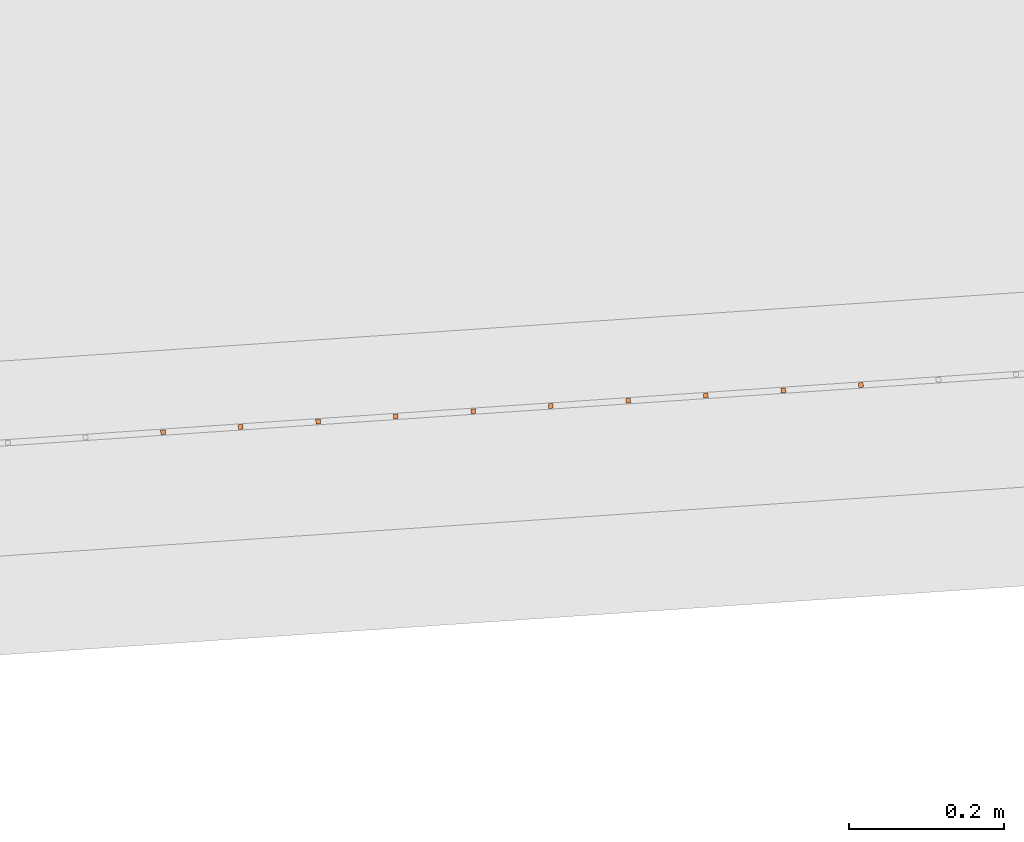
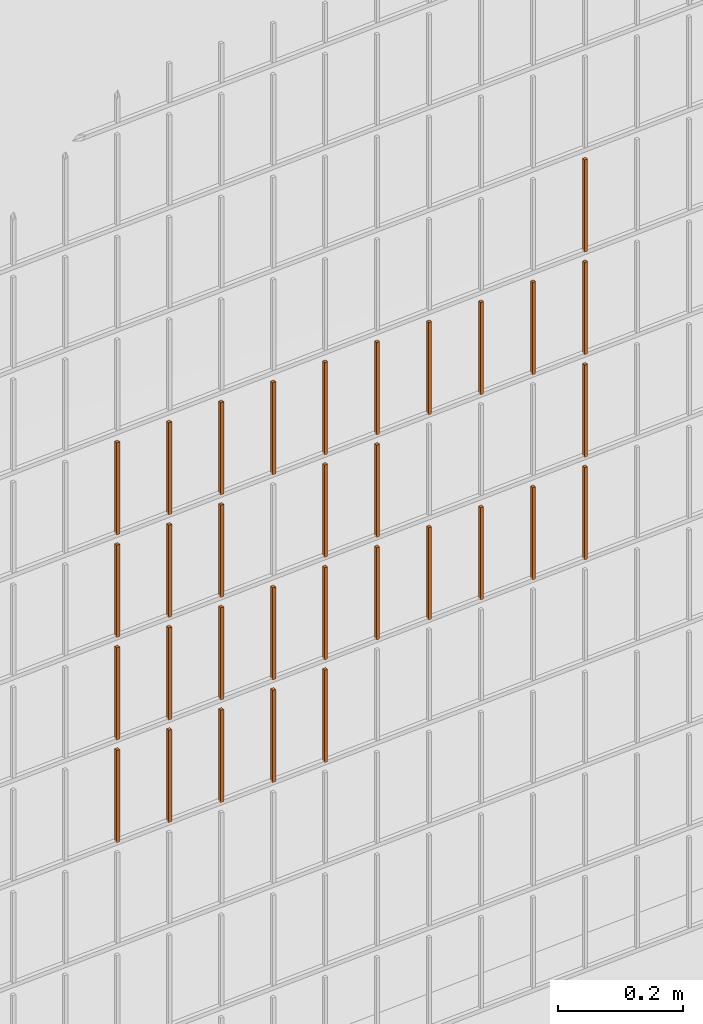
# One storey, part 341 of 1809: 32 proxies, 1 element without a shape of its own.
"""IFC2X3 building model written with IfcOpenShell, lengths in millimetres."""

from ifc_helpers import new_model, entity, si_unit, converted_unit, derived_unit, money_unit, direction, frame, origin_with_axes, place, context, subcontext, project, spatial, faceted_brep, source, transform, mapped, material, type_object, element, aggregate, save


model = new_model("IFC2X3")

# Units and contexts
model_context = context("Model", 3, precision=0.01, world=origin_with_axes(), true_north=direction((0.0, 1.0)))
body_context = subcontext(model_context, "Body", "Model", "MODEL_VIEW")
ifc_project = project(units=[si_unit("LENGTHUNIT", "METRE", prefix="MILLI"), si_unit("AREAUNIT", "SQUARE_METRE"), si_unit("VOLUMEUNIT", "CUBIC_METRE"), converted_unit("PLANEANGLEUNIT", "DEGREE", entity("IfcPlaneAngleMeasure", 0.0174532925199), si_unit("PLANEANGLEUNIT", "RADIAN"), dimensions=[0, 0, 0, 0, 0, 0, 0]), si_unit("SOLIDANGLEUNIT", "STERADIAN"), money_unit("EUR"), converted_unit("TIMEUNIT", "Year", entity("IfcTimeMeasure", 31556926.0), si_unit("TIMEUNIT", "SECOND"), dimensions=[0, 0, 1, 0, 0, 0, 0]), si_unit("MASSUNIT", "GRAM", prefix="KILO"), si_unit("THERMODYNAMICTEMPERATUREUNIT", "DEGREE_CELSIUS"), si_unit("LUMINOUSINTENSITYUNIT", "LUMEN"), si_unit("ENERGYUNIT", "JOULE", prefix="MEGA"), derived_unit("THERMALCONDUCTANCEUNIT", [(si_unit("POWERUNIT", "WATT"), 1), (si_unit("LENGTHUNIT", "METRE"), -1), (si_unit("THERMODYNAMICTEMPERATUREUNIT", "KELVIN"), -1)]), derived_unit("SPECIFICHEATCAPACITYUNIT", [(si_unit("ENERGYUNIT", "JOULE"), 1), (si_unit("MASSUNIT", "GRAM", prefix="KILO"), -1), (si_unit("THERMODYNAMICTEMPERATUREUNIT", "KELVIN"), -1)]), derived_unit("MASSDENSITYUNIT", [(si_unit("MASSUNIT", "GRAM", prefix="KILO"), 1), (si_unit("VOLUMEUNIT", "CUBIC_METRE"), -1)])], contexts=[model_context])

# Site, building, storey
site_placement = place(None, origin_with_axes())
site = spatial("IfcSite", under=ifc_project, at=site_placement, Name="Politse- ja Piirivalveameti ning Päästeameti ühishoone", CompositionType="ELEMENT")
building_placement = place(site_placement, origin_with_axes())
building = spatial("IfcBuilding", under=site, at=building_placement, Name="Politse- ja Piirivalveameti ning Päästeameti ühishoone", CompositionType="ELEMENT")
storey_placement = place(building_placement, origin_with_axes())
storey = spatial("IfcBuildingStorey", under=building, at=storey_placement, Name="Esimene korrus", CompositionType="ELEMENT", Elevation=0.0)

# Proxies
building_element_proxy_type_1 = type_object("IfcBuildingElementProxyType", Name="Railing Type", PredefinedType="NOTDEFINED")
proxy_1_placement = place(storey_placement, frame((89252.001212, -29183.4766571, 203.661247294), z_axis=(0.0, 0.0, 1.0), x_axis=(1.0, 0.0, 0.0)))
proxy_1 = element("IfcBuildingElementProxy", 1, at=proxy_1_placement, inside=storey, type_object=building_element_proxy_type_1, Name="PIIRDEAED")
ifc_material = material(Name="ET-03_Raud")
building_element_proxy_type_2 = type_object("IfcBuildingElementProxyType", Name="IfcBuildingElementProxy", PredefinedType="NOTDEFINED")
shared_shape_1 = source(origin_with_axes(), body_context, "Body", "Brep", [
    faceted_brep([(3.0, 3.0, -0.000752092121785), (-3.0, 3.0, -0.000752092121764), (-3.0, 3.0, 179.99926046), (3.0, 3.0, 179.99926046), (3.0, -3.0, 0.000752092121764), (-3.0, -3.0, 0.000752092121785), (-3.0, -3.0, 180.000764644), (3.0, -3.0, 180.000764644)], [[[0, 1, 2, 3]], [[0, 4, 5, 1]], [[1, 5, 6, 2]], [[3, 2, 6, 7]], [[4, 0, 3, 7]], [[5, 4, 7, 6]]]),
])
proxy_2_placement = place(proxy_1_placement, frame((-30257.7411612, -19341.5709885, 819.631564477), z_axis=(0.0, 0.0, 1.0), x_axis=(1.0, 0.0, 0.0)))
proxy_2 = element("IfcBuildingElementProxy", 2, at=proxy_2_placement, type_object=building_element_proxy_type_2, material=ifc_material, Name="BALUSTER - 001", context=body_context, shape_type="MappedRepresentation", body=[
    mapped(shared_shape_1, transform((0.0, 0.0, 0.0), x_axis=(-0.0673926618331, 0.997726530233, 0.0), y_axis=(-0.997726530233, -0.0673926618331, 0.0), z_axis=(0.0, 0.0, 1.0))),
])
proxy_3_placement = place(proxy_1_placement, frame((-30257.7411612, -19341.5709885, 1219.63156448), z_axis=(0.0, 0.0, 1.0), x_axis=(1.0, 0.0, 0.0)))
proxy_3 = element("IfcBuildingElementProxy", 3, at=proxy_3_placement, type_object=building_element_proxy_type_2, material=ifc_material, Name="BALUSTER - 001", context=body_context, shape_type="MappedRepresentation", body=[
    mapped(shared_shape_1, transform((0.0, 0.0, 0.0), x_axis=(-0.0673926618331, 0.997726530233, 0.0), y_axis=(-0.997726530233, -0.0673926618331, 0.0), z_axis=(0.0, 0.0, 1.0))),
])
shared_shape_2 = source(origin_with_axes(), body_context, "Body", "Brep", [
    faceted_brep([(3.0, 3.0, -0.000752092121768), (-3.0, 3.0, -0.000752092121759), (-3.00000000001, 2.99999999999, 179.99926046), (2.99999999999, 2.99999999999, 179.99926046), (3.0, -3.0, 0.000752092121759), (-3.0, -3.0, 0.000752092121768), (-3.00000000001, -3.00000000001, 180.000764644), (2.99999999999, -3.00000000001, 180.000764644)], [[[0, 1, 2, 3]], [[0, 4, 5, 1]], [[1, 5, 6, 2]], [[3, 2, 6, 7]], [[4, 0, 3, 7]], [[5, 4, 7, 6]]]),
])
proxy_4_placement = place(proxy_1_placement, frame((-30656.8317733, -19368.5280532, 1019.53128553), z_axis=(0.0, 0.0, 1.0), x_axis=(1.0, 0.0, 0.0)))
proxy_4 = element("IfcBuildingElementProxy", 4, at=proxy_4_placement, type_object=building_element_proxy_type_2, material=ifc_material, Name="BALUSTER - 001", context=body_context, shape_type="MappedRepresentation", body=[
    mapped(shared_shape_2, transform((0.0, 0.0, 0.0), x_axis=(-0.0673926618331, 0.997726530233, 0.0), y_axis=(-0.997726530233, -0.0673926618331, 0.0), z_axis=(0.0, 0.0, 1.0))),
])
shared_shape_3 = source(origin_with_axes(), body_context, "Body", "Brep", [
    faceted_brep([(3.0, 3.0, -0.000752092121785), (-3.0, 3.0, -0.000752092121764), (-3.0, 3.0, 179.99926046), (3.0, 3.0, 179.99926046), (3.0, -3.0, 0.000752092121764), (-3.0, -3.0, 0.000752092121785), (-3.0, -3.0, 180.000764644), (3.0, -3.0, 180.000764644)], [[[0, 1, 2, 3]], [[0, 4, 5, 1]], [[1, 5, 6, 2]], [[3, 2, 6, 7]], [[4, 0, 3, 7]], [[5, 4, 7, 6]]]),
])
proxy_5_placement = place(proxy_1_placement, frame((-30257.7411612, -19341.5709885, 1419.63156448), z_axis=(0.0, 0.0, 1.0), x_axis=(1.0, 0.0, 0.0)))
proxy_5 = element("IfcBuildingElementProxy", 5, at=proxy_5_placement, type_object=building_element_proxy_type_2, material=ifc_material, Name="BALUSTER - 001", context=body_context, shape_type="MappedRepresentation", body=[
    mapped(shared_shape_3, transform((0.0, 0.0, 0.0), x_axis=(-0.0673926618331, 0.997726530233, 0.0), y_axis=(-0.997726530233, -0.0673926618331, 0.0), z_axis=(0.0, 0.0, 1.0))),
])
shared_shape_4 = source(origin_with_axes(), body_context, "Body", "Brep", [
    faceted_brep([(3.0, 3.0, -0.000752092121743), (-3.0, 3.0, -0.000752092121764), (-3.0, 3.0, 179.99926046), (3.0, 3.0, 179.99926046), (3.0, -3.0, 0.000752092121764), (-3.0, -3.0, 0.000752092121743), (-3.0, -3.0, 180.000764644), (3.0, -3.0, 180.000764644)], [[[0, 1, 2, 3]], [[0, 4, 5, 1]], [[1, 5, 6, 2]], [[3, 2, 6, 7]], [[4, 0, 3, 7]], [[5, 4, 7, 6]]]),
])
proxy_6_placement = place(proxy_1_placement, frame((-30557.0591203, -19361.788787, 819.556355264), z_axis=(0.0, 0.0, 1.0), x_axis=(1.0, 0.0, 0.0)))
proxy_6 = element("IfcBuildingElementProxy", 6, at=proxy_6_placement, type_object=building_element_proxy_type_2, material=ifc_material, Name="BALUSTER - 001", context=body_context, shape_type="MappedRepresentation", body=[
    mapped(shared_shape_4, transform((0.0, 0.0, 0.0), x_axis=(-0.0673926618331, 0.997726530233, 0.0), y_axis=(-0.997726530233, -0.0673926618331, 0.0), z_axis=(0.0, 0.0, 1.0))),
])
shared_shape_5 = source(origin_with_axes(), body_context, "Body", "Brep", [
    faceted_brep([(3.0, 3.0, -0.000752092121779), (-3.0, 3.0, -0.00075209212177), (-3.00000000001, 3.0, 179.99926046), (2.99999999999, 3.0, 179.99926046), (3.0, -3.0, 0.00075209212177), (-3.0, -3.0, 0.000752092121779), (-3.00000000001, -3.0, 180.000764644), (2.99999999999, -3.0, 180.000764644)], [[[0, 1, 2, 3]], [[0, 4, 5, 1]], [[1, 5, 6, 2]], [[3, 2, 6, 7]], [[4, 0, 3, 7]], [[5, 4, 7, 6]]]),
])
proxy_7_placement = place(proxy_1_placement, frame((-30257.7411612, -19341.5709885, 1019.63156448), z_axis=(0.0, 0.0, 1.0), x_axis=(1.0, 0.0, 0.0)))
proxy_7 = element("IfcBuildingElementProxy", 7, at=proxy_7_placement, type_object=building_element_proxy_type_2, material=ifc_material, Name="BALUSTER - 001", context=body_context, shape_type="MappedRepresentation", body=[
    mapped(shared_shape_5, transform((0.0, 0.0, 0.0), x_axis=(-0.0673926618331, 0.997726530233, 0.0), y_axis=(-0.997726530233, -0.0673926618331, 0.0), z_axis=(0.0, 0.0, 1.0))),
])
shared_shape_6 = source(origin_with_axes(), body_context, "Body", "Brep", [
    faceted_brep([(3.0, 3.0, -0.000752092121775), (-3.0, 3.0, -0.000752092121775), (-3.0, 3.0, 179.99926046), (3.0, 3.0, 179.99926046), (3.0, -3.0, 0.000752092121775), (-3.0, -3.0, 0.000752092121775), (-3.0, -3.0, 180.000764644), (3.0, -3.0, 180.000764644)], [[[0, 1, 2, 3]], [[0, 4, 5, 1]], [[1, 5, 6, 2]], [[3, 2, 6, 7]], [[4, 0, 3, 7]], [[5, 4, 7, 6]]]),
])
proxy_8_placement = place(proxy_1_placement, frame((-31055.9223854, -19395.4851179, 1219.43100658), z_axis=(0.0, 0.0, 1.0), x_axis=(1.0, 0.0, 0.0)))
proxy_8 = element("IfcBuildingElementProxy", 8, at=proxy_8_placement, type_object=building_element_proxy_type_2, material=ifc_material, Name="BALUSTER - 001", context=body_context, shape_type="MappedRepresentation", body=[
    mapped(shared_shape_6, transform((0.0, 0.0, 0.0), x_axis=(-0.0673926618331, 0.997726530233, 0.0), y_axis=(-0.997726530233, -0.0673926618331, 0.0), z_axis=(0.0, 0.0, 1.0))),
])
shared_shape_7 = source(origin_with_axes(), body_context, "Body", "Brep", [
    faceted_brep([(3.0, 3.0, -0.000752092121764), (-3.0, 3.0, -0.000752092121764), (-3.0, 3.0, 179.99926046), (3.0, 3.0, 179.99926046), (3.0, -3.0, 0.000752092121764), (-3.0, -3.0, 0.000752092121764), (-3.0, -3.0, 180.000764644), (3.0, -3.0, 180.000764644)], [[[0, 1, 2, 3]], [[0, 4, 5, 1]], [[1, 5, 6, 2]], [[3, 2, 6, 7]], [[4, 0, 3, 7]], [[5, 4, 7, 6]]]),
])
proxy_9_placement = place(proxy_1_placement, frame((-30856.3770794, -19382.0065856, 1219.48114605), z_axis=(0.0, 0.0, 1.0), x_axis=(1.0, 0.0, 0.0)))
proxy_9 = element("IfcBuildingElementProxy", 9, at=proxy_9_placement, type_object=building_element_proxy_type_2, material=ifc_material, Name="BALUSTER - 001", context=body_context, shape_type="MappedRepresentation", body=[
    mapped(shared_shape_7, transform((0.0, 0.0, 0.0), x_axis=(-0.0673926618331, 0.997726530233, 0.0), y_axis=(-0.997726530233, -0.0673926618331, 0.0), z_axis=(0.0, 0.0, 1.0))),
])
shared_shape_8 = source(origin_with_axes(), body_context, "Body", "Brep", [
    faceted_brep([(3.0, 3.0, -0.000752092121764), (-3.0, 3.0, -0.000752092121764), (-3.0, 3.0, 179.99926046), (3.0, 3.0, 179.99926046), (3.0, -3.0, 0.000752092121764), (-3.0, -3.0, 0.000752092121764), (-3.0, -3.0, 180.000764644), (3.0, -3.0, 180.000764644)], [[[0, 1, 2, 3]], [[0, 4, 5, 1]], [[1, 5, 6, 2]], [[3, 2, 6, 7]], [[4, 0, 3, 7]], [[5, 4, 7, 6]]]),
])
proxy_10_placement = place(proxy_1_placement, frame((-30457.2864673, -19355.0495208, 819.581425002), z_axis=(0.0, 0.0, 1.0), x_axis=(1.0, 0.0, 0.0)))
proxy_10 = element("IfcBuildingElementProxy", 10, at=proxy_10_placement, type_object=building_element_proxy_type_2, material=ifc_material, Name="BALUSTER - 001", context=body_context, shape_type="MappedRepresentation", body=[
    mapped(shared_shape_8, transform((0.0, 0.0, 0.0), x_axis=(-0.0673926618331, 0.997726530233, 0.0), y_axis=(-0.997726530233, -0.0673926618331, 0.0), z_axis=(0.0, 0.0, 1.0))),
])
shared_shape_9 = source(origin_with_axes(), body_context, "Body", "Brep", [
    faceted_brep([(3.0, 3.0, -0.000752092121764), (-3.0, 3.0, -0.000752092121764), (-3.0, 3.0, 179.99926046), (3.0, 3.0, 179.99926046), (3.0, -3.0, 0.000752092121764), (-3.0, -3.0, 0.000752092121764), (-3.0, -3.0, 180.000764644), (3.0, -3.0, 180.000764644)], [[[0, 1, 2, 3]], [[0, 4, 5, 1]], [[1, 5, 6, 2]], [[3, 2, 6, 7]], [[4, 0, 3, 7]], [[5, 4, 7, 6]]]),
])
proxy_11_placement = place(proxy_1_placement, frame((-30856.3770794, -19382.0065856, 819.481146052), z_axis=(0.0, 0.0, 1.0), x_axis=(1.0, 0.0, 0.0)))
proxy_11 = element("IfcBuildingElementProxy", 11, at=proxy_11_placement, type_object=building_element_proxy_type_2, material=ifc_material, Name="BALUSTER - 001", context=body_context, shape_type="MappedRepresentation", body=[
    mapped(shared_shape_9, transform((0.0, 0.0, 0.0), x_axis=(-0.0673926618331, 0.997726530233, 0.0), y_axis=(-0.997726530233, -0.0673926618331, 0.0), z_axis=(0.0, 0.0, 1.0))),
])
shared_shape_10 = source(origin_with_axes(), body_context, "Body", "Brep", [
    faceted_brep([(3.0, 3.0, -0.000752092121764), (-3.0, 3.0, -0.000752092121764), (-3.0, 3.0, 179.99926046), (3.0, 3.0, 179.99926046), (3.0, -3.0, 0.000752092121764), (-3.0, -3.0, 0.000752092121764), (-3.0, -3.0, 180.000764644), (3.0, -3.0, 180.000764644)], [[[0, 1, 2, 3]], [[0, 4, 5, 1]], [[1, 5, 6, 2]], [[3, 2, 6, 7]], [[4, 0, 3, 7]], [[5, 4, 7, 6]]]),
])
proxy_12_placement = place(proxy_1_placement, frame((-30956.1497324, -19388.7458517, 619.456076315), z_axis=(0.0, 0.0, 1.0), x_axis=(1.0, 0.0, 0.0)))
proxy_12 = element("IfcBuildingElementProxy", 12, at=proxy_12_placement, type_object=building_element_proxy_type_2, material=ifc_material, Name="BALUSTER - 001", context=body_context, shape_type="MappedRepresentation", body=[
    mapped(shared_shape_10, transform((0.0, 0.0, 0.0), x_axis=(-0.0673926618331, 0.997726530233, 0.0), y_axis=(-0.997726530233, -0.0673926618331, 0.0), z_axis=(0.0, 0.0, 1.0))),
])
shared_shape_11 = source(origin_with_axes(), body_context, "Body", "Brep", [
    faceted_brep([(3.0, 3.0, -0.000752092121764), (-3.0, 3.0, -0.000752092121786), (-3.0, 3.0, 179.99926046), (3.0, 3.0, 179.99926046), (3.0, -3.0, 0.000752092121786), (-3.0, -3.0, 0.000752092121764), (-3.0, -3.0, 180.000764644), (3.0, -3.0, 180.000764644)], [[[0, 1, 2, 3]], [[0, 4, 5, 1]], [[1, 5, 6, 2]], [[3, 2, 6, 7]], [[4, 0, 3, 7]], [[5, 4, 7, 6]]]),
])
proxy_13_placement = place(proxy_1_placement, frame((-31155.6950385, -19402.2243841, 619.40593684), z_axis=(0.0, 0.0, 1.0), x_axis=(1.0, 0.0, 0.0)))
proxy_13 = element("IfcBuildingElementProxy", 13, at=proxy_13_placement, type_object=building_element_proxy_type_2, material=ifc_material, Name="BALUSTER - 001", context=body_context, shape_type="MappedRepresentation", body=[
    mapped(shared_shape_11, transform((0.0, 0.0, 0.0), x_axis=(-0.0673926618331, 0.997726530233, 0.0), y_axis=(-0.997726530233, -0.0673926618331, 0.0), z_axis=(0.0, 0.0, 1.0))),
])
shared_shape_12 = source(origin_with_axes(), body_context, "Body", "Brep", [
    faceted_brep([(3.0, 3.0, -0.000752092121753), (-3.0, 3.0, -0.000752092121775), (-3.0, 3.0, 179.99926046), (3.0, 3.0, 179.99926046), (3.0, -3.0, 0.000752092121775), (-3.0, -3.0, 0.000752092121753), (-3.0, -3.0, 180.000764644), (3.0, -3.0, 180.000764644)], [[[0, 1, 2, 3]], [[0, 4, 5, 1]], [[1, 5, 6, 2]], [[3, 2, 6, 7]], [[4, 0, 3, 7]], [[5, 4, 7, 6]]]),
])
proxy_14_placement = place(proxy_1_placement, frame((-30557.0591203, -19361.788787, 1219.55635526), z_axis=(0.0, 0.0, 1.0), x_axis=(1.0, 0.0, 0.0)))
proxy_14 = element("IfcBuildingElementProxy", 14, at=proxy_14_placement, type_object=building_element_proxy_type_2, material=ifc_material, Name="BALUSTER - 001", context=body_context, shape_type="MappedRepresentation", body=[
    mapped(shared_shape_12, transform((0.0, 0.0, 0.0), x_axis=(-0.0673926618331, 0.997726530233, 0.0), y_axis=(-0.997726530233, -0.0673926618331, 0.0), z_axis=(0.0, 0.0, 1.0))),
])
shared_shape_13 = source(origin_with_axes(), body_context, "Body", "Brep", [
    faceted_brep([(3.0, 3.0, -0.000752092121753), (-3.0, 3.0, -0.000752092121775), (-3.0, 3.0, 179.99926046), (3.0, 3.0, 179.99926046), (3.0, -3.0, 0.000752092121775), (-3.0, -3.0, 0.000752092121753), (-3.0, -3.0, 180.000764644), (3.0, -3.0, 180.000764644)], [[[0, 1, 2, 3]], [[0, 4, 5, 1]], [[1, 5, 6, 2]], [[3, 2, 6, 7]], [[4, 0, 3, 7]], [[5, 4, 7, 6]]]),
])
proxy_15_placement = place(proxy_1_placement, frame((-30656.8317733, -19368.5280532, 1219.53128553), z_axis=(0.0, 0.0, 1.0), x_axis=(1.0, 0.0, 0.0)))
proxy_15 = element("IfcBuildingElementProxy", 15, at=proxy_15_placement, type_object=building_element_proxy_type_2, material=ifc_material, Name="BALUSTER - 001", context=body_context, shape_type="MappedRepresentation", body=[
    mapped(shared_shape_13, transform((0.0, 0.0, 0.0), x_axis=(-0.0673926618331, 0.997726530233, 0.0), y_axis=(-0.997726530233, -0.0673926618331, 0.0), z_axis=(0.0, 0.0, 1.0))),
])
proxy_16_placement = place(proxy_1_placement, frame((-30756.6044264, -19375.2673194, 1219.50621579), z_axis=(0.0, 0.0, 1.0), x_axis=(1.0, 0.0, 0.0)))
proxy_16 = element("IfcBuildingElementProxy", 16, at=proxy_16_placement, type_object=building_element_proxy_type_2, material=ifc_material, Name="BALUSTER - 001", context=body_context, shape_type="MappedRepresentation", body=[
    mapped(shared_shape_13, transform((0.0, 0.0, 0.0), x_axis=(-0.0673926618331, 0.997726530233, 0.0), y_axis=(-0.997726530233, -0.0673926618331, 0.0), z_axis=(0.0, 0.0, 1.0))),
])
shared_shape_14 = source(origin_with_axes(), body_context, "Body", "Brep", [
    faceted_brep([(3.0, 3.0, -0.000752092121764), (-3.0, 3.0, -0.000752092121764), (-3.0, 3.0, 179.99926046), (3.0, 3.0, 179.99926046), (3.0, -3.0, 0.000752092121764), (-3.0, -3.0, 0.000752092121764), (-3.0, -3.0, 180.000764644), (3.0, -3.0, 180.000764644)], [[[0, 1, 2, 3]], [[0, 4, 5, 1]], [[1, 5, 6, 2]], [[3, 2, 6, 7]], [[4, 0, 3, 7]], [[5, 4, 7, 6]]]),
])
proxy_17_placement = place(proxy_1_placement, frame((-30856.3770794, -19382.0065856, 619.481146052), z_axis=(0.0, 0.0, 1.0), x_axis=(1.0, 0.0, 0.0)))
proxy_17 = element("IfcBuildingElementProxy", 17, at=proxy_17_placement, type_object=building_element_proxy_type_2, material=ifc_material, Name="BALUSTER - 001", context=body_context, shape_type="MappedRepresentation", body=[
    mapped(shared_shape_14, transform((0.0, 0.0, 0.0), x_axis=(-0.0673926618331, 0.997726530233, 0.0), y_axis=(-0.997726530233, -0.0673926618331, 0.0), z_axis=(0.0, 0.0, 1.0))),
])
proxy_18_placement = place(proxy_1_placement, frame((-30756.6044264, -19375.2673194, 819.50621579), z_axis=(0.0, 0.0, 1.0), x_axis=(1.0, 0.0, 0.0)))
proxy_18 = element("IfcBuildingElementProxy", 18, at=proxy_18_placement, type_object=building_element_proxy_type_2, material=ifc_material, Name="BALUSTER - 001", context=body_context, shape_type="MappedRepresentation", body=[
    mapped(shared_shape_14, transform((0.0, 0.0, 0.0), x_axis=(-0.0673926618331, 0.997726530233, 0.0), y_axis=(-0.997726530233, -0.0673926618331, 0.0), z_axis=(0.0, 0.0, 1.0))),
])
proxy_19_placement = place(proxy_1_placement, frame((-30956.1497324, -19388.7458517, 819.456076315), z_axis=(0.0, 0.0, 1.0), x_axis=(1.0, 0.0, 0.0)))
proxy_19 = element("IfcBuildingElementProxy", 19, at=proxy_19_placement, type_object=building_element_proxy_type_2, material=ifc_material, Name="BALUSTER - 001", context=body_context, shape_type="MappedRepresentation", body=[
    mapped(shared_shape_14, transform((0.0, 0.0, 0.0), x_axis=(-0.0673926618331, 0.997726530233, 0.0), y_axis=(-0.997726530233, -0.0673926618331, 0.0), z_axis=(0.0, 0.0, 1.0))),
])
shared_shape_15 = source(origin_with_axes(), body_context, "Body", "Brep", [
    faceted_brep([(3.0, 3.0, -0.000752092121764), (-3.0, 3.0, -0.000752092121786), (-3.0, 3.0, 179.99926046), (3.0, 3.0, 179.99926046), (3.0, -3.0, 0.000752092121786), (-3.0, -3.0, 0.000752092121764), (-3.0, -3.0, 180.000764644), (3.0, -3.0, 180.000764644)], [[[0, 1, 2, 3]], [[0, 4, 5, 1]], [[1, 5, 6, 2]], [[3, 2, 6, 7]], [[4, 0, 3, 7]], [[5, 4, 7, 6]]]),
])
proxy_20_placement = place(proxy_1_placement, frame((-31155.6950385, -19402.2243841, 819.40593684), z_axis=(0.0, 0.0, 1.0), x_axis=(1.0, 0.0, 0.0)))
proxy_20 = element("IfcBuildingElementProxy", 20, at=proxy_20_placement, type_object=building_element_proxy_type_2, material=ifc_material, Name="BALUSTER - 001", context=body_context, shape_type="MappedRepresentation", body=[
    mapped(shared_shape_15, transform((0.0, 0.0, 0.0), x_axis=(-0.0673926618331, 0.997726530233, 0.0), y_axis=(-0.997726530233, -0.0673926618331, 0.0), z_axis=(0.0, 0.0, 1.0))),
])
shared_shape_16 = source(origin_with_axes(), body_context, "Body", "Brep", [
    faceted_brep([(3.0, 3.0, -0.000752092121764), (-3.0, 3.0, -0.000752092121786), (-3.0, 3.0, 179.99926046), (3.0, 3.0, 179.99926046), (3.0, -3.0, 0.000752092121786), (-3.0, -3.0, 0.000752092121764), (-3.0, -3.0, 180.000764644), (3.0, -3.0, 180.000764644)], [[[0, 1, 2, 3]], [[0, 4, 5, 1]], [[1, 5, 6, 2]], [[3, 2, 6, 7]], [[4, 0, 3, 7]], [[5, 4, 7, 6]]]),
])
proxy_21_placement = place(proxy_1_placement, frame((-31155.6950385, -19402.2243841, 1219.40593684), z_axis=(0.0, 0.0, 1.0), x_axis=(1.0, 0.0, 0.0)))
proxy_21 = element("IfcBuildingElementProxy", 21, at=proxy_21_placement, type_object=building_element_proxy_type_2, material=ifc_material, Name="BALUSTER - 001", context=body_context, shape_type="MappedRepresentation", body=[
    mapped(shared_shape_16, transform((0.0, 0.0, 0.0), x_axis=(-0.0673926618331, 0.997726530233, 0.0), y_axis=(-0.997726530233, -0.0673926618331, 0.0), z_axis=(0.0, 0.0, 1.0))),
])
shared_shape_17 = source(origin_with_axes(), body_context, "Body", "Brep", [
    faceted_brep([(3.0, 3.0, -0.000752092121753), (-3.0, 3.0, -0.000752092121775), (-3.0, 3.0, 179.99926046), (3.0, 3.0, 179.99926046), (3.0, -3.0, 0.000752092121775), (-3.0, -3.0, 0.000752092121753), (-3.0, -3.0, 180.000764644), (3.0, -3.0, 180.000764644)], [[[0, 1, 2, 3]], [[0, 4, 5, 1]], [[1, 5, 6, 2]], [[3, 2, 6, 7]], [[4, 0, 3, 7]], [[5, 4, 7, 6]]]),
])
proxy_22_placement = place(proxy_1_placement, frame((-30656.8317733, -19368.5280532, 819.531285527), z_axis=(0.0, 0.0, 1.0), x_axis=(1.0, 0.0, 0.0)))
proxy_22 = element("IfcBuildingElementProxy", 22, at=proxy_22_placement, type_object=building_element_proxy_type_2, material=ifc_material, Name="BALUSTER - 001", context=body_context, shape_type="MappedRepresentation", body=[
    mapped(shared_shape_17, transform((0.0, 0.0, 0.0), x_axis=(-0.0673926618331, 0.997726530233, 0.0), y_axis=(-0.997726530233, -0.0673926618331, 0.0), z_axis=(0.0, 0.0, 1.0))),
])
shared_shape_18 = source(origin_with_axes(), body_context, "Body", "Brep", [
    faceted_brep([(3.0, 3.0, -0.000752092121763), (-3.0, 3.0, -0.000752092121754), (-3.00000000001, 2.99999999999, 179.99926046), (2.99999999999, 2.99999999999, 179.99926046), (3.0, -3.0, 0.000752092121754), (-3.0, -3.0, 0.000752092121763), (-3.00000000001, -3.00000000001, 180.000764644), (2.99999999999, -3.00000000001, 180.000764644)], [[[0, 1, 2, 3]], [[0, 4, 5, 1]], [[1, 5, 6, 2]], [[3, 2, 6, 7]], [[4, 0, 3, 7]], [[5, 4, 7, 6]]]),
])
proxy_23_placement = place(proxy_1_placement, frame((-31155.6950385, -19402.2243841, 1019.40593684), z_axis=(0.0, 0.0, 1.0), x_axis=(1.0, 0.0, 0.0)))
proxy_23 = element("IfcBuildingElementProxy", 23, at=proxy_23_placement, type_object=building_element_proxy_type_2, material=ifc_material, Name="BALUSTER - 001", context=body_context, shape_type="MappedRepresentation", body=[
    mapped(shared_shape_18, transform((0.0, 0.0, 0.0), x_axis=(-0.0673926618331, 0.997726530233, 0.0), y_axis=(-0.997726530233, -0.0673926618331, 0.0), z_axis=(0.0, 0.0, 1.0))),
])
shared_shape_19 = source(origin_with_axes(), body_context, "Body", "Brep", [
    faceted_brep([(3.0, 3.0, -0.000752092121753), (-3.0, 3.0, -0.000752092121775), (-3.0, 3.0, 179.99926046), (3.0, 3.0, 179.99926046), (3.0, -3.0, 0.000752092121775), (-3.0, -3.0, 0.000752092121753), (-3.0, -3.0, 180.000764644), (3.0, -3.0, 180.000764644)], [[[0, 1, 2, 3]], [[0, 4, 5, 1]], [[1, 5, 6, 2]], [[3, 2, 6, 7]], [[4, 0, 3, 7]], [[5, 4, 7, 6]]]),
])
proxy_24_placement = place(proxy_1_placement, frame((-30457.2864673, -19355.0495208, 1219.581425), z_axis=(0.0, 0.0, 1.0), x_axis=(1.0, 0.0, 0.0)))
proxy_24 = element("IfcBuildingElementProxy", 24, at=proxy_24_placement, type_object=building_element_proxy_type_2, material=ifc_material, Name="BALUSTER - 001", context=body_context, shape_type="MappedRepresentation", body=[
    mapped(shared_shape_19, transform((0.0, 0.0, 0.0), x_axis=(-0.0673926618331, 0.997726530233, 0.0), y_axis=(-0.997726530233, -0.0673926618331, 0.0), z_axis=(0.0, 0.0, 1.0))),
])
shared_shape_20 = source(origin_with_axes(), body_context, "Body", "Brep", [
    faceted_brep([(3.0, 3.0, -0.000752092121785), (-3.0, 3.0, -0.000752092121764), (-3.0, 3.0, 179.99926046), (3.0, 3.0, 179.99926046), (3.0, -3.0, 0.000752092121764), (-3.0, -3.0, 0.000752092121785), (-3.0, -3.0, 180.000764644), (3.0, -3.0, 180.000764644)], [[[0, 1, 2, 3]], [[0, 4, 5, 1]], [[1, 5, 6, 2]], [[3, 2, 6, 7]], [[4, 0, 3, 7]], [[5, 4, 7, 6]]]),
])
proxy_25_placement = place(proxy_1_placement, frame((-30956.1497324, -19388.7458517, 1219.45607631), z_axis=(0.0, 0.0, 1.0), x_axis=(1.0, 0.0, 0.0)))
proxy_25 = element("IfcBuildingElementProxy", 25, at=proxy_25_placement, type_object=building_element_proxy_type_2, material=ifc_material, Name="BALUSTER - 001", context=body_context, shape_type="MappedRepresentation", body=[
    mapped(shared_shape_20, transform((0.0, 0.0, 0.0), x_axis=(-0.0673926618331, 0.997726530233, 0.0), y_axis=(-0.997726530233, -0.0673926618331, 0.0), z_axis=(0.0, 0.0, 1.0))),
])
shared_shape_21 = source(origin_with_axes(), body_context, "Body", "Brep", [
    faceted_brep([(3.0, 3.0, -0.000752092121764), (-3.0, 3.0, -0.000752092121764), (-3.0, 3.0, 179.99926046), (3.0, 3.0, 179.99926046), (3.0, -3.0, 0.000752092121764), (-3.0, -3.0, 0.000752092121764), (-3.0, -3.0, 180.000764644), (3.0, -3.0, 180.000764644)], [[[0, 1, 2, 3]], [[0, 4, 5, 1]], [[1, 5, 6, 2]], [[3, 2, 6, 7]], [[4, 0, 3, 7]], [[5, 4, 7, 6]]]),
])
proxy_26_placement = place(proxy_1_placement, frame((-30357.5138143, -19348.3102546, 819.606494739), z_axis=(0.0, 0.0, 1.0), x_axis=(1.0, 0.0, 0.0)))
proxy_26 = element("IfcBuildingElementProxy", 26, at=proxy_26_placement, type_object=building_element_proxy_type_2, material=ifc_material, Name="BALUSTER - 001", context=body_context, shape_type="MappedRepresentation", body=[
    mapped(shared_shape_21, transform((0.0, 0.0, 0.0), x_axis=(-0.0673926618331, 0.997726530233, 0.0), y_axis=(-0.997726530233, -0.0673926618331, 0.0), z_axis=(0.0, 0.0, 1.0))),
])
proxy_27_placement = place(proxy_1_placement, frame((-30357.5138143, -19348.3102546, 1219.60649474), z_axis=(0.0, 0.0, 1.0), x_axis=(1.0, 0.0, 0.0)))
proxy_27 = element("IfcBuildingElementProxy", 27, at=proxy_27_placement, type_object=building_element_proxy_type_2, material=ifc_material, Name="BALUSTER - 001", context=body_context, shape_type="MappedRepresentation", body=[
    mapped(shared_shape_21, transform((0.0, 0.0, 0.0), x_axis=(-0.0673926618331, 0.997726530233, 0.0), y_axis=(-0.997726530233, -0.0673926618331, 0.0), z_axis=(0.0, 0.0, 1.0))),
])
shared_shape_22 = source(origin_with_axes(), body_context, "Body", "Brep", [
    faceted_brep([(3.0, 3.0, -0.000752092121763), (-3.0, 3.0, -0.000752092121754), (-3.00000000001, 2.99999999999, 179.99926046), (2.99999999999, 2.99999999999, 179.99926046), (3.0, -3.0, 0.000752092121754), (-3.0, -3.0, 0.000752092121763), (-3.00000000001, -3.00000000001, 180.000764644), (2.99999999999, -3.00000000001, 180.000764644)], [[[0, 1, 2, 3]], [[0, 4, 5, 1]], [[1, 5, 6, 2]], [[3, 2, 6, 7]], [[4, 0, 3, 7]], [[5, 4, 7, 6]]]),
])
proxy_28_placement = place(proxy_1_placement, frame((-31055.9223854, -19395.4851179, 1019.43100658), z_axis=(0.0, 0.0, 1.0), x_axis=(1.0, 0.0, 0.0)))
proxy_28 = element("IfcBuildingElementProxy", 28, at=proxy_28_placement, type_object=building_element_proxy_type_2, material=ifc_material, Name="BALUSTER - 001", context=body_context, shape_type="MappedRepresentation", body=[
    mapped(shared_shape_22, transform((0.0, 0.0, 0.0), x_axis=(-0.0673926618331, 0.997726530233, 0.0), y_axis=(-0.997726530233, -0.0673926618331, 0.0), z_axis=(0.0, 0.0, 1.0))),
])
shared_shape_23 = source(origin_with_axes(), body_context, "Body", "Brep", [
    faceted_brep([(3.0, 3.0, -0.000752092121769), (-3.0, 3.0, -0.00075209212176), (-3.00000000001, 3.0, 179.99926046), (2.99999999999, 3.0, 179.99926046), (3.0, -3.0, 0.00075209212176), (-3.0, -3.0, 0.000752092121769), (-3.00000000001, -3.0, 180.000764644), (2.99999999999, -3.0, 180.000764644)], [[[0, 1, 2, 3]], [[0, 4, 5, 1]], [[1, 5, 6, 2]], [[3, 2, 6, 7]], [[4, 0, 3, 7]], [[5, 4, 7, 6]]]),
])
proxy_29_placement = place(proxy_1_placement, frame((-30956.1497324, -19388.7458517, 1019.45607631), z_axis=(0.0, 0.0, 1.0), x_axis=(1.0, 0.0, 0.0)))
proxy_29 = element("IfcBuildingElementProxy", 29, at=proxy_29_placement, type_object=building_element_proxy_type_2, material=ifc_material, Name="BALUSTER - 001", context=body_context, shape_type="MappedRepresentation", body=[
    mapped(shared_shape_23, transform((0.0, 0.0, 0.0), x_axis=(-0.0673926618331, 0.997726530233, 0.0), y_axis=(-0.997726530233, -0.0673926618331, 0.0), z_axis=(0.0, 0.0, 1.0))),
])
shared_shape_24 = source(origin_with_axes(), body_context, "Body", "Brep", [
    faceted_brep([(3.0, 3.0, -0.000752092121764), (-3.0, 3.0, -0.000752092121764), (-3.0, 3.0, 179.99926046), (3.0, 3.0, 179.99926046), (3.0, -3.0, 0.000752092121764), (-3.0, -3.0, 0.000752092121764), (-3.0, -3.0, 180.000764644), (3.0, -3.0, 180.000764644)], [[[0, 1, 2, 3]], [[0, 4, 5, 1]], [[1, 5, 6, 2]], [[3, 2, 6, 7]], [[4, 0, 3, 7]], [[5, 4, 7, 6]]]),
])
proxy_30_placement = place(proxy_1_placement, frame((-30756.6044264, -19375.2673194, 619.50621579), z_axis=(0.0, 0.0, 1.0), x_axis=(1.0, 0.0, 0.0)))
proxy_30 = element("IfcBuildingElementProxy", 30, at=proxy_30_placement, type_object=building_element_proxy_type_2, material=ifc_material, Name="BALUSTER - 001", context=body_context, shape_type="MappedRepresentation", body=[
    mapped(shared_shape_24, transform((0.0, 0.0, 0.0), x_axis=(-0.0673926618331, 0.997726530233, 0.0), y_axis=(-0.997726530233, -0.0673926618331, 0.0), z_axis=(0.0, 0.0, 1.0))),
])
shared_shape_25 = source(origin_with_axes(), body_context, "Body", "Brep", [
    faceted_brep([(3.0, 3.0, -0.000752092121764), (-3.0, 3.0, -0.000752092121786), (-3.0, 3.0, 179.99926046), (3.0, 3.0, 179.99926046), (3.0, -3.0, 0.000752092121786), (-3.0, -3.0, 0.000752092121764), (-3.0, -3.0, 180.000764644), (3.0, -3.0, 180.000764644)], [[[0, 1, 2, 3]], [[0, 4, 5, 1]], [[1, 5, 6, 2]], [[3, 2, 6, 7]], [[4, 0, 3, 7]], [[5, 4, 7, 6]]]),
])
proxy_31_placement = place(proxy_1_placement, frame((-31055.9223854, -19395.4851179, 619.431006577), z_axis=(0.0, 0.0, 1.0), x_axis=(1.0, 0.0, 0.0)))
proxy_31 = element("IfcBuildingElementProxy", 31, at=proxy_31_placement, type_object=building_element_proxy_type_2, material=ifc_material, Name="BALUSTER - 001", context=body_context, shape_type="MappedRepresentation", body=[
    mapped(shared_shape_25, transform((0.0, 0.0, 0.0), x_axis=(-0.0673926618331, 0.997726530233, 0.0), y_axis=(-0.997726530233, -0.0673926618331, 0.0), z_axis=(0.0, 0.0, 1.0))),
])
shared_shape_26 = source(origin_with_axes(), body_context, "Body", "Brep", [
    faceted_brep([(3.0, 3.0, -0.000752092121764), (-3.0, 3.0, -0.000752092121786), (-3.0, 3.0, 179.99926046), (3.0, 3.0, 179.99926046), (3.0, -3.0, 0.000752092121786), (-3.0, -3.0, 0.000752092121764), (-3.0, -3.0, 180.000764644), (3.0, -3.0, 180.000764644)], [[[0, 1, 2, 3]], [[0, 4, 5, 1]], [[1, 5, 6, 2]], [[3, 2, 6, 7]], [[4, 0, 3, 7]], [[5, 4, 7, 6]]]),
])
proxy_32_placement = place(proxy_1_placement, frame((-31055.9223854, -19395.4851179, 819.431006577), z_axis=(0.0, 0.0, 1.0), x_axis=(1.0, 0.0, 0.0)))
proxy_32 = element("IfcBuildingElementProxy", 32, at=proxy_32_placement, type_object=building_element_proxy_type_2, material=ifc_material, Name="BALUSTER - 001", context=body_context, shape_type="MappedRepresentation", body=[
    mapped(shared_shape_26, transform((0.0, 0.0, 0.0), x_axis=(-0.0673926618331, 0.997726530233, 0.0), y_axis=(-0.997726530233, -0.0673926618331, 0.0), z_axis=(0.0, 0.0, 1.0))),
])
shared_shape_27 = source(origin_with_axes(), body_context, "Body", "Brep", [
    faceted_brep([(3.0, 3.0, -0.000752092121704), (-3.0, 3.0, -0.000752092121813), (-3.00000000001, 2.99999999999, 179.99926046), (2.99999999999, 2.99999999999, 179.99926046), (3.0, -3.0, 0.000752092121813), (-3.0, -3.0, 0.000752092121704), (-3.00000000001, -3.00000000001, 180.000764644), (2.99999999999, -3.00000000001, 180.000764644)], [[[0, 1, 2, 3]], [[0, 4, 5, 1]], [[1, 5, 6, 2]], [[3, 2, 6, 7]], [[4, 0, 3, 7]], [[5, 4, 7, 6]]]),
])
proxy_33_placement = place(proxy_1_placement, frame((-30756.6044264, -19375.2673194, 1019.50621579), z_axis=(0.0, 0.0, 1.0), x_axis=(1.0, 0.0, 0.0)))
proxy_33 = element("IfcBuildingElementProxy", 33, at=proxy_33_placement, type_object=building_element_proxy_type_2, material=ifc_material, Name="BALUSTER - 001", context=body_context, shape_type="MappedRepresentation", body=[
    mapped(shared_shape_27, transform((0.0, 0.0, 0.0), x_axis=(-0.0673926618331, 0.997726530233, 0.0), y_axis=(-0.997726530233, -0.0673926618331, 0.0), z_axis=(0.0, 0.0, 1.0))),
])
aggregate(proxy_1, [proxy_30, proxy_17, proxy_12, proxy_31, proxy_13, proxy_2, proxy_26, proxy_10, proxy_6, proxy_22, proxy_18, proxy_11, proxy_19, proxy_32, proxy_20, proxy_7, proxy_4, proxy_33, proxy_29, proxy_28, proxy_23, proxy_3, proxy_27, proxy_24, proxy_14, proxy_15, proxy_16, proxy_9, proxy_25, proxy_8, proxy_21, proxy_5])

save(model, "model.ifc")
